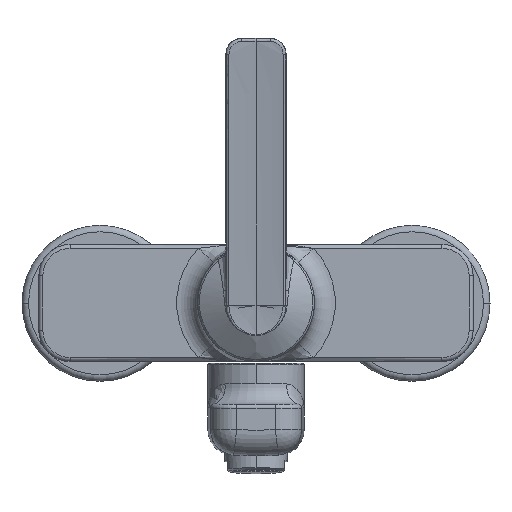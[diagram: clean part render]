
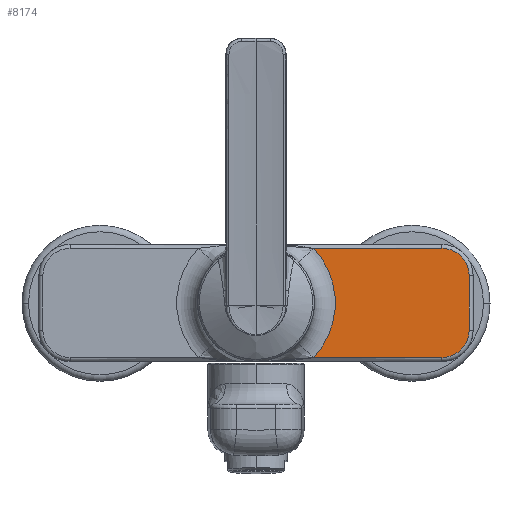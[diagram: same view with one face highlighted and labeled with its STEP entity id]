
A CAD part, top view. The second image highlights one B-rep face of the part: STEP entity #8174.
In plain terms, the highlighted planar face has unit normal (0, 0, 1).
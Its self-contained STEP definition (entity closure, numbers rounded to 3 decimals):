
#1206=CARTESIAN_POINT('',(22.119,-21.,14.));
#1222=CARTESIAN_POINT('',(0.,0.,14.));
#1223=DIRECTION('',(0.,0.,-1.));
#1224=DIRECTION('',(0.725,0.689,0.));
#1225=AXIS2_PLACEMENT_3D('',#1222,#1223,#1224);
#1227=DIRECTION('',(1.,0.,0.));
#1228=VECTOR('',#1227,49.381);
#1229=CARTESIAN_POINT('',(22.119,21.,14.));
#1230=LINE('',#1229,#1228);
#1231=CARTESIAN_POINT('',(71.5,10.5,14.));
#1232=DIRECTION('',(0.,0.,-1.));
#1233=DIRECTION('',(0.,1.,0.));
#1234=AXIS2_PLACEMENT_3D('',#1231,#1232,#1233);
#1236=DIRECTION('',(0.,-1.,0.));
#1237=VECTOR('',#1236,21.);
#1238=CARTESIAN_POINT('',(82.,10.5,14.));
#1239=LINE('',#1238,#1237);
#1240=CARTESIAN_POINT('',(71.5,-10.5,14.));
#1241=DIRECTION('',(0.,0.,-1.));
#1242=DIRECTION('',(1.,0.,0.));
#1243=AXIS2_PLACEMENT_3D('',#1240,#1241,#1242);
#1245=DIRECTION('',(-1.,0.,0.));
#1246=VECTOR('',#1245,49.381);
#1247=CARTESIAN_POINT('',(71.5,-21.,14.));
#1248=LINE('',#1247,#1246);
#5762=CARTESIAN_POINT('',(82.,-10.5,14.));
#5763=CARTESIAN_POINT('',(71.5,-21.,14.));
#5764=VERTEX_POINT('',#5762);
#5765=VERTEX_POINT('',#5763);
#5768=CARTESIAN_POINT('',(82.,10.5,14.));
#5769=VERTEX_POINT('',#5768);
#5772=CARTESIAN_POINT('',(71.5,21.,14.));
#5773=VERTEX_POINT('',#5772);
#5793=VERTEX_POINT('',#1206);
#5796=CARTESIAN_POINT('',(22.119,21.,14.));
#5797=VERTEX_POINT('',#5796);
#8159=CARTESIAN_POINT('',(-83.5,-22.5,14.));
#8160=DIRECTION('',(0.,0.,1.));
#8161=DIRECTION('',(1.,0.,0.));
#8162=AXIS2_PLACEMENT_3D('',#8159,#8160,#8161);
#8163=PLANE('',#8162);
#8164=ORIENTED_EDGE('',*,*,#7113,.F.);
#8165=ORIENTED_EDGE('',*,*,#7232,.T.);
#8167=ORIENTED_EDGE('',*,*,#8166,.T.);
#8169=ORIENTED_EDGE('',*,*,#8168,.T.);
#8170=ORIENTED_EDGE('',*,*,#8138,.T.);
#8171=ORIENTED_EDGE('',*,*,#8152,.T.);
#8172=EDGE_LOOP('',(#8164,#8165,#8167,#8169,#8170,#8171));
#8173=FACE_OUTER_BOUND('',#8172,.F.);
#8174=ADVANCED_FACE('',(#8173),#8163,.T.);
#1226=CIRCLE('',#1225,30.5);
#1235=CIRCLE('',#1234,10.5);
#1244=CIRCLE('',#1243,10.5);
#7113=EDGE_CURVE('',#5797,#5793,#1226,.T.);
#7232=EDGE_CURVE('',#5797,#5773,#1230,.T.);
#8138=EDGE_CURVE('',#5764,#5765,#1244,.T.);
#8152=EDGE_CURVE('',#5765,#5793,#1248,.T.);
#8166=EDGE_CURVE('',#5773,#5769,#1235,.T.);
#8168=EDGE_CURVE('',#5769,#5764,#1239,.T.);
